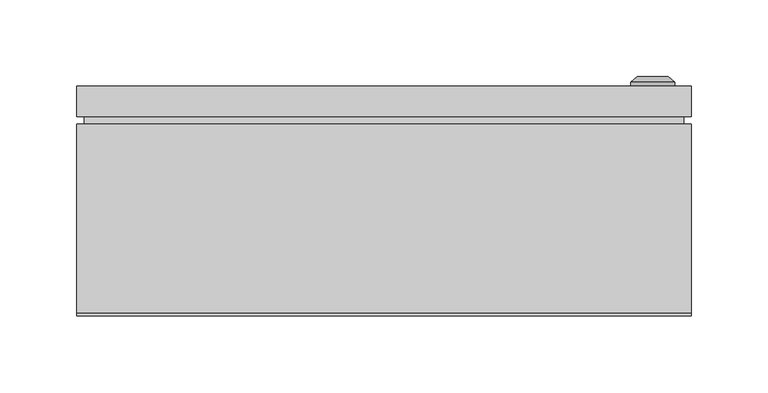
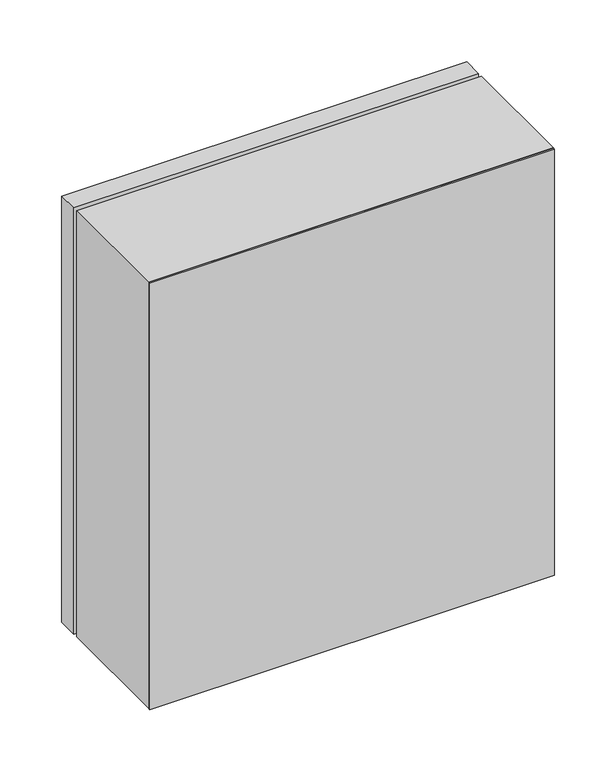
"""IFC4 building model written with IfcOpenShell, lengths in millimetres: proxy geometry, ЩУ-3ф_1-1-6_IP66 : ЩУ-3ф/1-1-6_IP66."""

from ifc_helpers import new_model, si_unit, frame, origin, origin_with_axes, place, context, project, spatial, polyline, circle_curve, outline, extrude, source, transform, mapped, element, save
from ifc_brep_helpers import plane_surface, cylinder_surface, revolved_surface, advanced_brep


def electrical_equipment_6fd5ae59(model_context):
    return source(origin(), model_context, "Body", "SolidModel", [
        extrude(outline(polyline([(195.0, 125.0), (-195.0, 125.0), (-195.0, 130.0), (195.0, 130.0), (195.0, 125.0)])), frame((0.0, 0.0, 5.0), z_axis=(0.0, 0.0, 1.0), x_axis=(1.0, 0.0, 0.0)), (0.0, 0.0, 1.0), 435.0),
        extrude(outline(polyline([(200.0, 130.0), (-200.0, 130.0), (-200.0, 150.0), (200.0, 150.0), (200.0, 130.0)])), origin_with_axes(), (0.0, 0.0, 1.0), 445.0),
        advanced_brep(
        [(160.669873, 150.0, 152.5), (189.330127, 150.0, 152.5), (175.0, 150.0, 152.5), (160.669873, 152.366592, 152.5), (189.330127, 152.366592, 152.5), (165.0, 156.0, 152.5), (185.0, 156.0, 152.5), (173.1080471, 156.0, 152.5), (176.8919529, 156.0, 152.5), (173.1080471, 154.9822294, 152.5), (176.8919529, 154.9822294, 152.5), (175.0, 154.9822294, 152.5)],
        [
            (0, 1, circle_curve(frame((175.0, 150.0, 152.5), z_axis=(0.0, -1.0, 0.0), x_axis=(1.0, 0.0, 0.0)), 14.330127)),
            (1, 2),
            (2, 0),
            (1, 0, circle_curve(frame((175.0, 150.0, 152.5), z_axis=(0.0, -1.0, 0.0), x_axis=(1.0, 0.0, 0.0)), 14.330127)),
            (3, 4, circle_curve(frame((175.0, 152.366592, 152.5), z_axis=(0.0, -1.0, 0.0), x_axis=(1.0, 0.0, 0.0)), 14.330127)),
            (4, 1),
            (0, 3),
            (4, 3, circle_curve(frame((175.0, 152.366592, 152.5), z_axis=(0.0, -1.0, 0.0), x_axis=(1.0, 0.0, 0.0)), 14.330127)),
            (5, 6, circle_curve(frame((175.0, 156.0, 152.5), z_axis=(0.0, -1.0, 0.0), x_axis=(1.0, 0.0, 0.0)), 10.0)),
            (6, 4),
            (3, 5),
            (6, 5, circle_curve(frame((175.0, 156.0, 152.5), z_axis=(0.0, -1.0, 0.0), x_axis=(1.0, 0.0, 0.0)), 10.0)),
            (7, 8, circle_curve(frame((175.0, 156.0, 152.5), z_axis=(0.0, -1.0, 0.0), x_axis=(1.0, 0.0, 0.0)), 1.8919529)),
            (8, 6),
            (5, 7),
            (8, 7, circle_curve(frame((175.0, 156.0, 152.5), z_axis=(0.0, -1.0, 0.0), x_axis=(1.0, 0.0, 0.0)), 1.8919529)),
            (9, 10, circle_curve(frame((175.0, 154.9822294, 152.5), z_axis=(0.0, -1.0, 0.0), x_axis=(1.0, 0.0, 0.0)), 1.8919529)),
            (10, 8),
            (7, 9),
            (10, 9, circle_curve(frame((175.0, 154.9822294, 152.5), z_axis=(0.0, -1.0, 0.0), x_axis=(1.0, 0.0, 0.0)), 1.8919529)),
            (11, 10),
            (9, 11),
        ],
        [
            plane_surface(frame((175.0, 150.0, 152.5), z_axis=(0.0, -1.0, 0.0), x_axis=(1.0, 0.0, 0.0))),
            cylinder_surface(frame((175.0, 163.1348851, 152.5), z_axis=(0.0, 1.0, 0.0), x_axis=(1.0, 0.0, 0.0)), 14.330127),
            revolved_surface(polyline([(189.330127, 152.366592, 152.5), (185.0, 156.0, 152.5)]), (175.0, 163.1348851, 152.5), (0.0, 1.0, 0.0)),
            plane_surface(frame((175.0, 156.0, 152.5), z_axis=(0.0, 1.0, 0.0), x_axis=(1.0, 0.0, 0.0))),
            revolved_surface(polyline([(176.8919529, 156.0, 152.5), (176.8919529, 154.9822294, 152.5)]), (175.0, 163.1348851, 152.5), (0.0, 1.0, 0.0)),
            plane_surface(frame((175.0, 154.9822294, 152.5), z_axis=(0.0, 1.0, 0.0), x_axis=(1.0, 0.0, 0.0))),
        ],
        [
            (0, [[1, 2, 3]]),
            (0, [[4, -3, -2]]),
            (1, [[5, 6, -1, 7]]),
            (1, [[8, -7, -4, -6]]),
            (2, [[9, 10, -5, 11]]),
            (2, [[12, -11, -8, -10]]),
            (3, [[13, 14, -9, 15]]),
            (3, [[16, -15, -12, -14]]),
            (4, [[17, 18, -13, 19]]),
            (4, [[20, -19, -16, -18]]),
            (5, [[21, -17, 22]]),
            (5, [[-22, -20, -21]]),
        ],
    ),
        extrude(outline(polyline([(445.0, -200.0033905), (0.0, -200.0033905), (0.0, 199.9966095), (445.0, 199.9966095), (445.0, -200.0033905)]), holes=[polyline([(420.0, -125.0033905), (420.0, 174.9966095), (25.0, 174.9966095), (25.0, -125.0033905), (420.0, -125.0033905)])]), frame((0.0, 2.0, 0.0), z_axis=(0.0, 1.0, 0.0), x_axis=(0.0, 0.0, 1.0)), (0.0, 0.0, 1.0), 123.0),
        extrude(outline(polyline([(200.0, 0.0), (-200.0, 0.0), (-200.0, 2.0), (200.0, 2.0), (200.0, 0.0)])), origin_with_axes(), (0.0, 0.0, 1.0), 445.0),
    ])


if __name__ == "__main__":
    model = new_model("IFC4")
    model_context = context("Model", 3, world=origin())
    ifc_project = project(units=[si_unit("LENGTHUNIT", "METRE", prefix="MILLI")], contexts=[model_context])
    site = spatial("IfcSite", under=ifc_project)
    building = spatial("IfcBuilding", under=site)
    placement = place(None, origin())
    electrical_equipment_shape = electrical_equipment_6fd5ae59(model_context)
    element("IfcBuildingElementProxy", 1, Name="ЩУ-3ф_1-1-6_IP66 : ЩУ-3ф/1-1-6_IP66", ObjectType="ЩУ-3ф_1-1-6_IP66 : ЩУ-3ф/1-1-6_IP66", at=placement, inside=building, context=model_context, shape_type="MappedRepresentation", body=[
        mapped(electrical_equipment_shape, transform((0.0, 0.0, 0.0), x_axis=(1.0, 0.0, 0.0), y_axis=(0.0, 1.0, 0.0), z_axis=(0.0, 0.0, 1.0))),
    ])
    save(model, "model.ifc")
